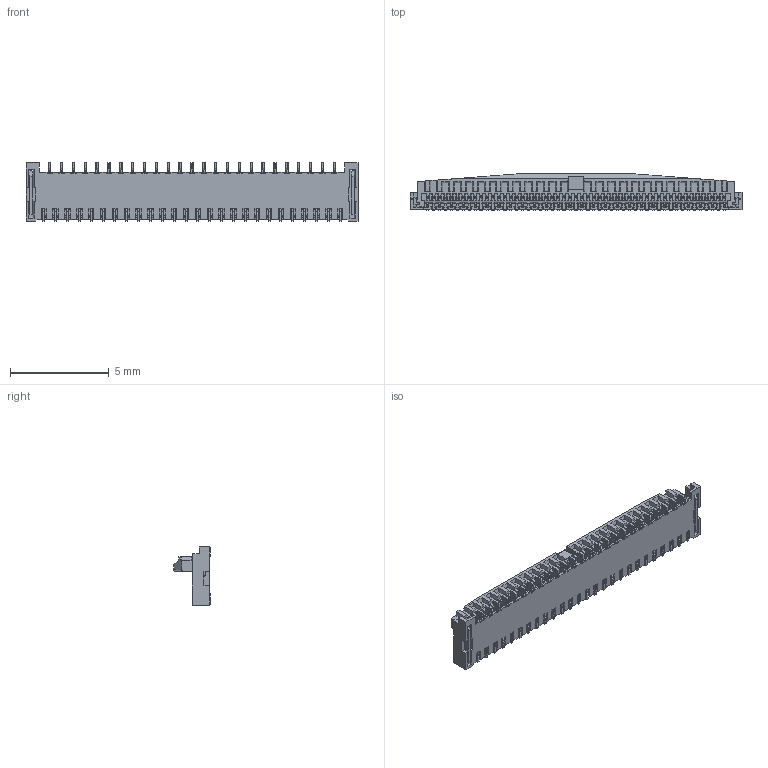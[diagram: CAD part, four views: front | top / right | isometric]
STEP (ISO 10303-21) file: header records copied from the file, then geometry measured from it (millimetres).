
FILE_DESCRIPTION (( 'STEP AP203' ), '1' );
FILE_NAME ('20605-051E-02C ACT OPEN STEP R4 ALL.STEP', '2015-09-14T05:36:12', ( '' ), ( '' ), 'SwSTEP 2.0', 'SolidWorks 2012', '' );
FILE_SCHEMA (( 'CONFIG_CONTROL_DESIGN' ));
Products named in the file (1): 20605-051E-02C ACT OPEN STEP R4 ALL
Bounding box: 16.8 x 1.85 x 2.95 mm (x, y, z)
Volume: 39.3 mm3; surface area: 254.1 mm2
Topology: 1 solids, 1 shells, 4953 faces, 14387 edges, 9488 vertices
Faces by surface type: plane 4125, cylinder 811, bspline 15, torus 2
Entity records: 161880 total; most frequent: CARTESIAN_POINT 30814, ORIENTED_EDGE 28774, DIRECTION 25143, EDGE_CURVE 14387, VECTOR 12525, LINE 12525, VERTEX_POINT 9488, AXIS2_PLACEMENT_3D 6309
